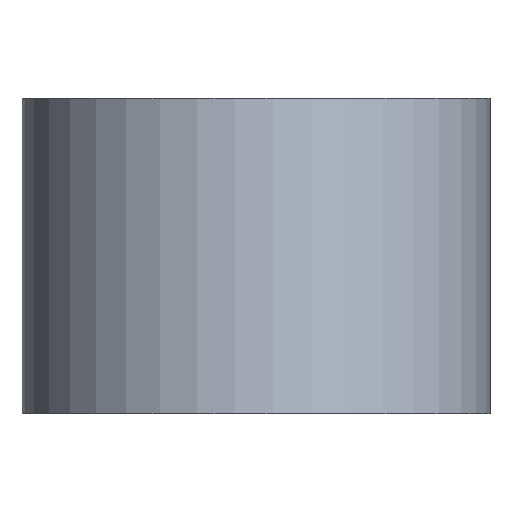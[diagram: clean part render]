
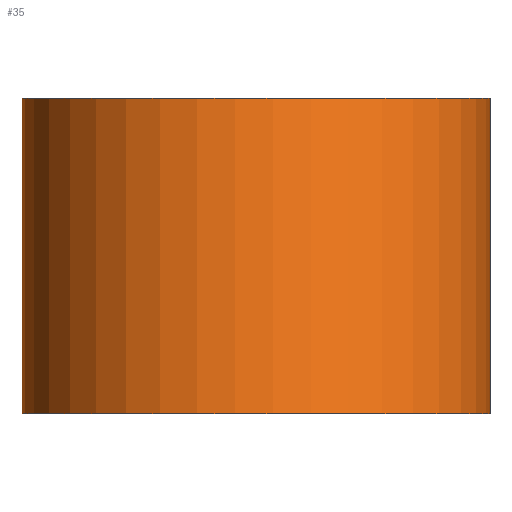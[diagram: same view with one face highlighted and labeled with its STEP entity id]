
A CAD part, front view. The second image highlights one B-rep face of the part: STEP entity #35.
In plain terms, the highlighted cylindrical face has radius 13.5 mm (diameter 27 mm), a full revolution.
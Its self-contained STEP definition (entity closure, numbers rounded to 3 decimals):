
#35 = ADVANCED_FACE('',(#36),#49,.T.);
#36 = FACE_BOUND('',#37,.T.);
#37 = EDGE_LOOP('',(#38,#99,#122,#176));
#38 = ORIENTED_EDGE('',*,*,#39,.T.);
#39 = EDGE_CURVE('',#40,#40,#42,.T.);
#40 = VERTEX_POINT('',#41);
#41 = CARTESIAN_POINT('',(13.5,-2.438,0.));
#42 = SURFACE_CURVE('',#43,(#48,#87),.PCURVE_S1.);
#43 = ELLIPSE('',#44,13.976,13.5);
#44 = AXIS2_PLACEMENT_3D('',#45,#46,#47);
#45 = CARTESIAN_POINT('',(0.,-2.438,0.));
#46 = DIRECTION('',(0.,-0.,1.));
#47 = DIRECTION('',(0.,1.,0.));
#48 = PCURVE('',#49,#54);
#49 = CYLINDRICAL_SURFACE('',#50,13.5);
#50 = AXIS2_PLACEMENT_3D('',#51,#52,#53);
#51 = CARTESIAN_POINT('',(0.,-5.789,-12.504));
#52 = DIRECTION('',(0.,0.259,0.966));
#53 = DIRECTION('',(1.,0.,0.));
#54 = DEFINITIONAL_REPRESENTATION('',(#55),#86);
#55 = B_SPLINE_CURVE_WITH_KNOTS('',8,(#56,#57,#58,#59,#60,#61,#62,#63,
    #64,#65,#66,#67,#68,#69,#70,#71,#72,#73,#74,#75,#76,#77,#78,#79,#80,
    #81,#82,#83,#84,#85),.UNSPECIFIED.,.F.,.F.,(9,7,7,7,9),(
    4.712,6.283,7.461,9.228,
    10.996),.UNSPECIFIED.);
#56 = CARTESIAN_POINT('',(0.,12.945));
#57 = CARTESIAN_POINT('',(0.196,13.656));
#58 = CARTESIAN_POINT('',(0.393,14.366));
#59 = CARTESIAN_POINT('',(0.589,15.034));
#60 = CARTESIAN_POINT('',(0.785,15.619));
#61 = CARTESIAN_POINT('',(0.982,16.085));
#62 = CARTESIAN_POINT('',(1.178,16.403));
#63 = CARTESIAN_POINT('',(1.374,16.563));
#64 = CARTESIAN_POINT('',(1.718,16.563));
#65 = CARTESIAN_POINT('',(1.865,16.473));
#66 = CARTESIAN_POINT('',(2.013,16.294));
#67 = CARTESIAN_POINT('',(2.16,16.029));
#68 = CARTESIAN_POINT('',(2.307,15.687));
#69 = CARTESIAN_POINT('',(2.454,15.28));
#70 = CARTESIAN_POINT('',(2.602,14.822));
#71 = CARTESIAN_POINT('',(2.97,13.591));
#72 = CARTESIAN_POINT('',(3.191,12.776));
#73 = CARTESIAN_POINT('',(3.412,11.938));
#74 = CARTESIAN_POINT('',(3.632,11.141));
#75 = CARTESIAN_POINT('',(3.853,10.447));
#76 = CARTESIAN_POINT('',(4.074,9.907));
#77 = CARTESIAN_POINT('',(4.295,9.553));
#78 = CARTESIAN_POINT('',(4.737,9.242));
#79 = CARTESIAN_POINT('',(4.958,9.284));
#80 = CARTESIAN_POINT('',(5.179,9.535));
#81 = CARTESIAN_POINT('',(5.4,9.987));
#82 = CARTESIAN_POINT('',(5.621,10.608));
#83 = CARTESIAN_POINT('',(5.841,11.347));
#84 = CARTESIAN_POINT('',(6.062,12.146));
#85 = CARTESIAN_POINT('',(6.283,12.945));
#86 = ( GEOMETRIC_REPRESENTATION_CONTEXT(2) 
PARAMETRIC_REPRESENTATION_CONTEXT() REPRESENTATION_CONTEXT('2D SPACE',''
  ) );
#87 = PCURVE('',#88,#93);
#88 = PLANE('',#89);
#89 = AXIS2_PLACEMENT_3D('',#90,#91,#92);
#90 = CARTESIAN_POINT('',(-80.,-115.722,0.));
#91 = DIRECTION('',(0.,0.,1.));
#92 = DIRECTION('',(1.,0.,0.));
#93 = DEFINITIONAL_REPRESENTATION('',(#94),#98);
#94 = ELLIPSE('',#95,13.976,13.5);
#95 = AXIS2_PLACEMENT_2D('',#96,#97);
#96 = CARTESIAN_POINT('',(80.,113.284));
#97 = DIRECTION('',(0.,1.));
#98 = ( GEOMETRIC_REPRESENTATION_CONTEXT(2) 
PARAMETRIC_REPRESENTATION_CONTEXT() REPRESENTATION_CONTEXT('2D SPACE',''
  ) );
#99 = ORIENTED_EDGE('',*,*,#100,.T.);
#100 = EDGE_CURVE('',#40,#101,#103,.T.);
#101 = VERTEX_POINT('',#102);
#102 = CARTESIAN_POINT('',(13.5,2.438,18.2));
#103 = SEAM_CURVE('',#104,(#108,#115),.PCURVE_S1.);
#104 = LINE('',#105,#106);
#105 = CARTESIAN_POINT('',(13.5,-5.789,-12.504));
#106 = VECTOR('',#107,1.);
#107 = DIRECTION('',(0.,0.259,0.966));
#108 = PCURVE('',#49,#109);
#109 = DEFINITIONAL_REPRESENTATION('',(#110),#114);
#110 = LINE('',#111,#112);
#111 = CARTESIAN_POINT('',(6.283,0.));
#112 = VECTOR('',#113,1.);
#113 = DIRECTION('',(0.,1.));
#114 = ( GEOMETRIC_REPRESENTATION_CONTEXT(2) 
PARAMETRIC_REPRESENTATION_CONTEXT() REPRESENTATION_CONTEXT('2D SPACE',''
  ) );
#115 = PCURVE('',#49,#116);
#116 = DEFINITIONAL_REPRESENTATION('',(#117),#121);
#117 = LINE('',#118,#119);
#118 = CARTESIAN_POINT('',(0.,0.));
#119 = VECTOR('',#120,1.);
#120 = DIRECTION('',(0.,1.));
#121 = ( GEOMETRIC_REPRESENTATION_CONTEXT(2) 
PARAMETRIC_REPRESENTATION_CONTEXT() REPRESENTATION_CONTEXT('2D SPACE',''
  ) );
#122 = ORIENTED_EDGE('',*,*,#123,.F.);
#123 = EDGE_CURVE('',#101,#101,#124,.T.);
#124 = SURFACE_CURVE('',#125,(#130,#164),.PCURVE_S1.);
#125 = ELLIPSE('',#126,13.976,13.5);
#126 = AXIS2_PLACEMENT_3D('',#127,#128,#129);
#127 = CARTESIAN_POINT('',(0.,2.438,18.2));
#128 = DIRECTION('',(0.,-0.,1.));
#129 = DIRECTION('',(0.,1.,0.));
#130 = PCURVE('',#49,#131);
#131 = DEFINITIONAL_REPRESENTATION('',(#132),#163);
#132 = B_SPLINE_CURVE_WITH_KNOTS('',8,(#133,#134,#135,#136,#137,#138,
    #139,#140,#141,#142,#143,#144,#145,#146,#147,#148,#149,#150,#151,
    #152,#153,#154,#155,#156,#157,#158,#159,#160,#161,#162),
  .UNSPECIFIED.,.F.,.F.,(9,7,7,7,9),(4.712,6.283,
    7.461,9.228,10.996),.UNSPECIFIED.);
#133 = CARTESIAN_POINT('',(0.,31.787));
#134 = CARTESIAN_POINT('',(0.196,32.498));
#135 = CARTESIAN_POINT('',(0.393,33.208));
#136 = CARTESIAN_POINT('',(0.589,33.876));
#137 = CARTESIAN_POINT('',(0.785,34.462));
#138 = CARTESIAN_POINT('',(0.982,34.927));
#139 = CARTESIAN_POINT('',(1.178,35.245));
#140 = CARTESIAN_POINT('',(1.374,35.405));
#141 = CARTESIAN_POINT('',(1.718,35.405));
#142 = CARTESIAN_POINT('',(1.865,35.315));
#143 = CARTESIAN_POINT('',(2.013,35.136));
#144 = CARTESIAN_POINT('',(2.16,34.871));
#145 = CARTESIAN_POINT('',(2.307,34.529));
#146 = CARTESIAN_POINT('',(2.454,34.122));
#147 = CARTESIAN_POINT('',(2.602,33.664));
#148 = CARTESIAN_POINT('',(2.97,32.433));
#149 = CARTESIAN_POINT('',(3.191,31.618));
#150 = CARTESIAN_POINT('',(3.412,30.78));
#151 = CARTESIAN_POINT('',(3.632,29.983));
#152 = CARTESIAN_POINT('',(3.853,29.289));
#153 = CARTESIAN_POINT('',(4.074,28.749));
#154 = CARTESIAN_POINT('',(4.295,28.395));
#155 = CARTESIAN_POINT('',(4.737,28.084));
#156 = CARTESIAN_POINT('',(4.958,28.126));
#157 = CARTESIAN_POINT('',(5.179,28.377));
#158 = CARTESIAN_POINT('',(5.4,28.829));
#159 = CARTESIAN_POINT('',(5.621,29.45));
#160 = CARTESIAN_POINT('',(5.841,30.189));
#161 = CARTESIAN_POINT('',(6.062,30.988));
#162 = CARTESIAN_POINT('',(6.283,31.787));
#163 = ( GEOMETRIC_REPRESENTATION_CONTEXT(2) 
PARAMETRIC_REPRESENTATION_CONTEXT() REPRESENTATION_CONTEXT('2D SPACE',''
  ) );
#164 = PCURVE('',#165,#170);
#165 = PLANE('',#166);
#166 = AXIS2_PLACEMENT_3D('',#167,#168,#169);
#167 = CARTESIAN_POINT('',(-80.,-115.722,18.2));
#168 = DIRECTION('',(0.,0.,1.));
#169 = DIRECTION('',(1.,0.,0.));
#170 = DEFINITIONAL_REPRESENTATION('',(#171),#175);
#171 = ELLIPSE('',#172,13.976,13.5);
#172 = AXIS2_PLACEMENT_2D('',#173,#174);
#173 = CARTESIAN_POINT('',(80.,118.16));
#174 = DIRECTION('',(0.,1.));
#175 = ( GEOMETRIC_REPRESENTATION_CONTEXT(2) 
PARAMETRIC_REPRESENTATION_CONTEXT() REPRESENTATION_CONTEXT('2D SPACE',''
  ) );
#176 = ORIENTED_EDGE('',*,*,#100,.F.);
